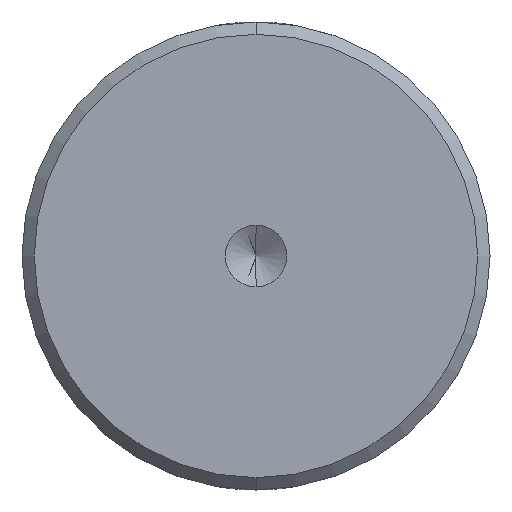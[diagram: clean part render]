
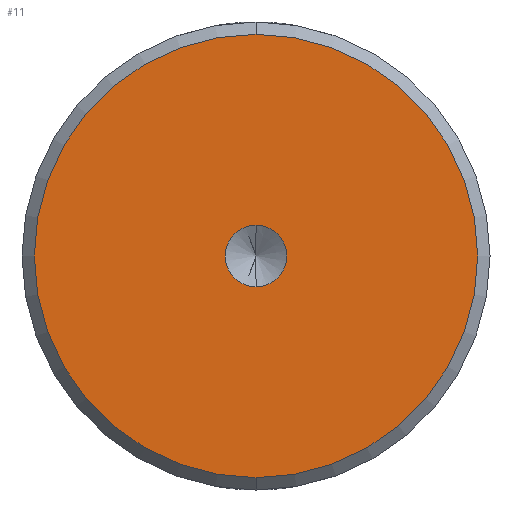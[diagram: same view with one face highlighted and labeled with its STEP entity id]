
A CAD part, front view. The second image highlights one B-rep face of the part: STEP entity #11.
In plain terms, the highlighted planar face has unit normal (0, -1, 0).
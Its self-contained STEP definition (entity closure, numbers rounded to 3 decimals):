
#11 = ADVANCED_FACE ( 'NONE', ( #586, #281 ), #537, .F. ) ;
#21 = ORIENTED_EDGE ( 'NONE', *, *, #299, .T. ) ;
#28 = CARTESIAN_POINT ( 'NONE',  ( 0., 0., -2.5 ) ) ;
#32 = VERTEX_POINT ( 'NONE', #526 ) ;
#51 = DIRECTION ( 'NONE',  ( 0., -1., 0. ) ) ;
#53 = ORIENTED_EDGE ( 'NONE', *, *, #542, .F. ) ;
#60 = CARTESIAN_POINT ( 'NONE',  ( 0., 0., 0. ) ) ;
#65 = VERTEX_POINT ( 'NONE', #28 ) ;
#69 = CARTESIAN_POINT ( 'NONE',  ( 0., 0., 0. ) ) ;
#70 = CIRCLE ( 'NONE', #579, 2.5 ) ;
#75 = DIRECTION ( 'NONE',  ( 0., -1., 0. ) ) ;
#85 = CIRCLE ( 'NONE', #395, 2.5 ) ;
#105 = EDGE_CURVE ( 'NONE', #151, #32, #226, .T. ) ;
#126 = DIRECTION ( 'NONE',  ( 0., 1., 0. ) ) ;
#138 = AXIS2_PLACEMENT_3D ( 'NONE', #435, #126, #332 ) ;
#151 = VERTEX_POINT ( 'NONE', #400 ) ;
#182 = DIRECTION ( 'NONE',  ( 0., -1., 0. ) ) ;
#206 = AXIS2_PLACEMENT_3D ( 'NONE', #69, #75, #232 ) ;
#226 = CIRCLE ( 'NONE', #593, 18. ) ;
#232 = DIRECTION ( 'NONE',  ( 0., 0., 1. ) ) ;
#262 = CIRCLE ( 'NONE', #206, 18. ) ;
#281 = FACE_BOUND ( 'NONE', #339, .T. ) ;
#299 = EDGE_CURVE ( 'NONE', #32, #151, #262, .T. ) ;
#325 = DIRECTION ( 'NONE',  ( 0., -1., 0. ) ) ;
#332 = DIRECTION ( 'NONE',  ( 0., 0., 1. ) ) ;
#339 = EDGE_LOOP ( 'NONE', ( #499, #53 ) ) ;
#343 = DIRECTION ( 'NONE',  ( 0., 0., 1. ) ) ;
#354 = VERTEX_POINT ( 'NONE', #391 ) ;
#390 = EDGE_LOOP ( 'NONE', ( #21, #507 ) ) ;
#391 = CARTESIAN_POINT ( 'NONE',  ( 0., 0., 2.5 ) ) ;
#395 = AXIS2_PLACEMENT_3D ( 'NONE', #555, #51, #498 ) ;
#400 = CARTESIAN_POINT ( 'NONE',  ( 0., 0., -18. ) ) ;
#435 = CARTESIAN_POINT ( 'NONE',  ( 0., 0., 0. ) ) ;
#464 = DIRECTION ( 'NONE',  ( 0., 0., -1. ) ) ;
#498 = DIRECTION ( 'NONE',  ( 0., 0., -1. ) ) ;
#499 = ORIENTED_EDGE ( 'NONE', *, *, #603, .F. ) ;
#507 = ORIENTED_EDGE ( 'NONE', *, *, #105, .T. ) ;
#526 = CARTESIAN_POINT ( 'NONE',  ( 0., 0., 18. ) ) ;
#537 = PLANE ( 'NONE',  #138 ) ;
#542 = EDGE_CURVE ( 'NONE', #354, #65, #85, .T. ) ;
#555 = CARTESIAN_POINT ( 'NONE',  ( 0., 0., 0. ) ) ;
#579 = AXIS2_PLACEMENT_3D ( 'NONE', #60, #325, #464 ) ;
#586 = FACE_OUTER_BOUND ( 'NONE', #390, .T. ) ;
#592 = CARTESIAN_POINT ( 'NONE',  ( 0., 0., 0. ) ) ;
#593 = AXIS2_PLACEMENT_3D ( 'NONE', #592, #182, #343 ) ;
#603 = EDGE_CURVE ( 'NONE', #65, #354, #70, .T. ) ;
